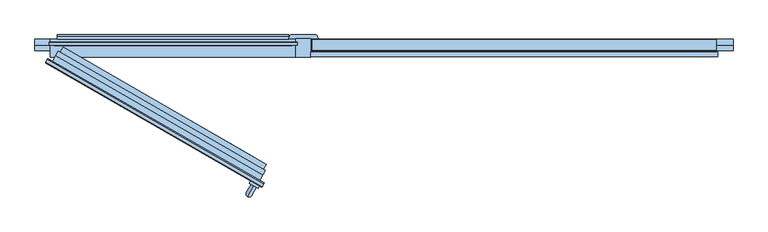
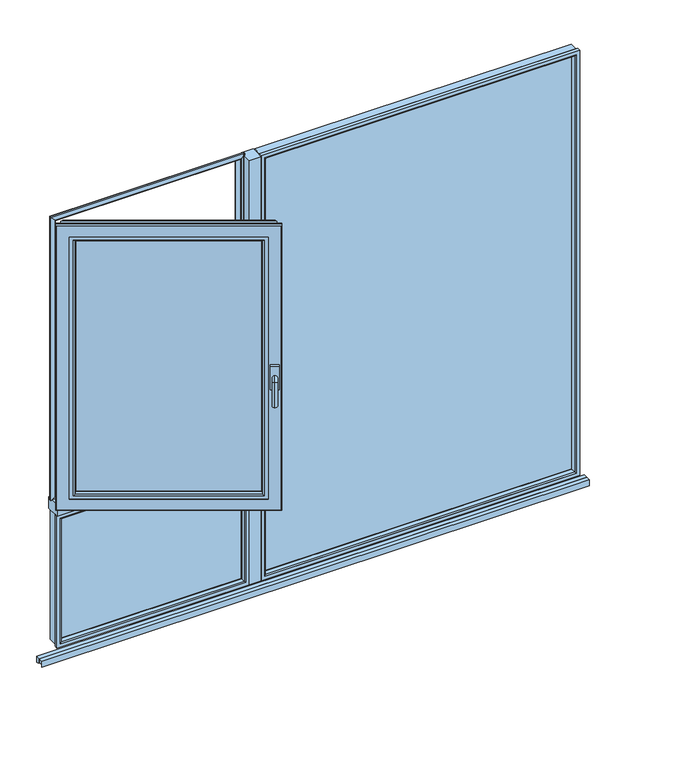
"""IFC4 building model written with IfcOpenShell, lengths in millimetres: window geometry, windowss9000gealanturntiltwindowsublightfixedwindow : windowss9000 2.60 x 2.25."""

from ifc_helpers import new_model, si_unit, point, frame, frame_2d, origin, place, context, project, spatial, polyline, circle_curve, ellipse_curve, trimmed, segment, composite_curve, outline, extrude, faceted_brep, source, transform, mapped, element, save
from ifc_brep_helpers import plane_surface, cylinder_surface, advanced_brep


def window_49c83c31(model_context):
    return source(origin(), model_context, "Body", "SolidModel", [
        faceted_brep([(-1225.0185609, 81.9435696, 1634.9814391), (-1228.9615609, 82.1650228, 1631.0384391), (-1228.9615609, 82.1650228, 3018.9615609), (-1225.0185609, 81.9435696, 3015.0185609), (-1225.0185609, 80.4586856, 1634.9814391), (-1225.0185609, 80.4586856, 3015.0185609), (-1227.3731482, 79.9993258, 1632.6268518), (-1227.3731482, 79.9993258, 3017.3731482), (-1246.1, 81.7, 1613.9), (-1246.1, 81.7, 3036.1), (-1246.1, 90.9718819, 1613.9), (-1246.1, 90.9718819, 3036.1), (-1246.4143137, 92.4497497, 1613.5856863), (-1246.4143137, 92.4497497, 3036.4143137), (-1245.4535534, 92.3254352, 1614.5464466), (-1245.4535534, 92.3254352, 3035.4535534), (-1243.8934304, 89.4676231, 1616.1065696), (-1243.8934304, 89.4676231, 3033.8934304), (-1243.4676669, 84.0419926, 1616.5323331), (-1243.4676669, 84.0419926, 3033.4676669), (-341.0384391, 82.1650228, 3018.9615609), (-344.9814391, 81.9435696, 3015.0185609), (-344.9814391, 80.4586856, 3015.0185609), (-342.6268518, 79.9993258, 3017.3731482), (-323.9, 81.7, 3036.1), (-323.9, 90.9718819, 3036.1), (-323.5856863, 92.4497497, 3036.4143137), (-324.5464466, 92.3254352, 3035.4535534), (-326.1065696, 89.4676231, 3033.8934304), (-326.5323331, 84.0419926, 3033.4676669), (-341.0384391, 82.1650228, 1631.0384391), (-344.9814391, 81.9435696, 1634.9814391), (-344.9814391, 80.4586856, 1634.9814391), (-342.6268518, 79.9993258, 1632.6268518), (-323.9, 81.7, 1613.9), (-323.9, 90.9718819, 1613.9), (-323.5856863, 92.4497497, 1613.5856863), (-324.5464466, 92.3254352, 1614.5464466), (-326.1065696, 89.4676231, 1616.1065696), (-326.5323331, 84.0419926, 1616.5323331)], [[[0, 1, 2, 3]], [[4, 0, 3, 5]], [[6, 4, 5, 7]], [[8, 6, 7, 9]], [[10, 8, 9, 11]], [[12, 10, 11, 13]], [[14, 12, 13, 15]], [[16, 14, 15, 17]], [[18, 16, 17, 19]], [[1, 18, 19, 2]], [[3, 2, 20, 21]], [[5, 3, 21, 22]], [[7, 5, 22, 23]], [[9, 7, 23, 24]], [[11, 9, 24, 25]], [[13, 11, 25, 26]], [[15, 13, 26, 27]], [[17, 15, 27, 28]], [[19, 17, 28, 29]], [[2, 19, 29, 20]], [[21, 20, 30, 31]], [[22, 21, 31, 32]], [[23, 22, 32, 33]], [[24, 23, 33, 34]], [[25, 24, 34, 35]], [[26, 25, 35, 36]], [[27, 26, 36, 37]], [[28, 27, 37, 38]], [[29, 28, 38, 39]], [[20, 29, 39, 30]], [[31, 30, 1, 0]], [[32, 31, 0, 4]], [[33, 32, 4, 6]], [[34, 33, 6, 8]], [[35, 34, 8, 10]], [[36, 35, 10, 12]], [[37, 36, 12, 14]], [[38, 37, 14, 16]], [[39, 38, 16, 18]], [[30, 39, 18, 1]]]),
        extrude(outline(polyline([(3016.0012172, 1226.0012172), (3016.0012172, -256.0012172), (913.9987828, -256.0012172), (913.9987828, 1226.0012172), (3016.0012172, 1226.0012172)]), holes=[polyline([(923.9987828, 1216.0012172), (923.9987828, -246.0012172), (3006.0012172, -246.0012172), (3006.0012172, 1216.0012172), (923.9987828, 1216.0012172)])]), frame((0.0, 59.5, 0.0), z_axis=(0.0, 1.0, 0.0), x_axis=(0.0, 0.0, 1.0)), (0.0, 0.0, 1.0), 2.5),
        advanced_brep(
        [(1242.0, 39.0, 3032.0), (1242.0, 39.0, 898.0), (1242.0, 54.5, 898.0), (1242.0, 54.5, 3032.0), (1227.8034793, 59.5, 3017.8034793), (1229.1432253, 54.5, 3019.1432253), (1229.1432253, 54.5, 910.8567747), (1227.8034793, 59.5, 912.1965207), (1216.0012172, 57.9825503, 3006.0012172), (1216.0012172, 59.5, 3006.0012172), (1216.0012172, 59.5, 923.9987828), (1216.0012172, 57.9825503, 923.9987828), (1219.8959832, 43.4470857, 3009.8959832), (1219.8959832, 43.4470857, 920.1040168), (1225.6915381, 39.0, 3015.6915381), (1225.6915381, 39.0, 914.3084619), (-272.0, 39.0, 898.0), (-272.0, 54.5, 898.0), (-259.1432253, 54.5, 910.8567747), (-257.8034793, 59.5, 912.1965207), (-246.0012172, 59.5, 923.9987828), (-246.0012172, 57.9825503, 923.9987828), (-249.8959832, 43.4470857, 920.1040168), (-255.6915381, 39.0, 914.3084619), (-272.0, 39.0, 3032.0), (-272.0, 54.5, 3032.0), (-259.1432253, 54.5, 3019.1432253), (-257.8034793, 59.5, 3017.8034793), (-246.0012172, 59.5, 3006.0012172), (-246.0012172, 57.9825503, 3006.0012172), (-249.8959832, 43.4470857, 3009.8959832), (-255.6915381, 39.0, 3015.6915381)],
        [
            (0, 1),
            (1, 2),
            (2, 3),
            (3, 0),
            (4, 5),
            (5, 6),
            (6, 7),
            (7, 4),
            (8, 9),
            (9, 10),
            (10, 11),
            (11, 8),
            (12, 8),
            (11, 13),
            (13, 12),
            (14, 12, ellipse_curve(frame((1225.6915381, 45.0, 3015.6915381), z_axis=(0.7071067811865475, 0.0, -0.7071067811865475), x_axis=(0.7071067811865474, 0.0, 0.7071067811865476)), 8.4852814, 6.0)),
            (13, 15, ellipse_curve(frame((1225.6915381, 45.0, 914.3084619), z_axis=(0.7071067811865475, 0.0, 0.7071067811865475), x_axis=(-0.7071067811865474, 0.0, 0.7071067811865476)), 8.4852814, 6.0)),
            (15, 14),
            (1, 16),
            (16, 17),
            (17, 2),
            (6, 18),
            (18, 19),
            (19, 7),
            (10, 20),
            (20, 21),
            (21, 11),
            (21, 22),
            (22, 13),
            (22, 23, ellipse_curve(frame((-255.6915381, 45.0, 914.3084619), z_axis=(0.7071067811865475, 0.0, -0.7071067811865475), x_axis=(0.7071067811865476, 0.0, 0.7071067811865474)), 8.4852814, 6.0)),
            (23, 15),
            (16, 24),
            (24, 25),
            (25, 17),
            (18, 26),
            (26, 27),
            (27, 19),
            (20, 28),
            (28, 29),
            (29, 21),
            (29, 30),
            (30, 22),
            (30, 31, ellipse_curve(frame((-255.6915381, 45.0, 3015.6915381), z_axis=(-0.7071067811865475, 0.0, -0.7071067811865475), x_axis=(0.7071067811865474, 0.0, -0.7071067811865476)), 8.4852814, 6.0)),
            (31, 23),
            (0, 24),
            (31, 14),
            (3, 25),
            (5, 26),
            (4, 27),
            (9, 28),
            (8, 29),
            (12, 30),
        ],
        [
            plane_surface(frame((1242.0, 40.0, 3032.0), z_axis=(1.0, 0.0, 0.0), x_axis=(0.0, 0.0, -1.0))),
            plane_surface(frame((1229.1432253, 54.5, 3019.1432253), z_axis=(0.9659258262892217, 0.2588190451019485, 0.0), x_axis=(0.0, 0.0, -1.0))),
            plane_surface(frame((1216.0012172, 59.5, 3006.0012172), z_axis=(-1.0, 0.0, 0.0), x_axis=(0.0, 0.0, -1.0))),
            plane_surface(frame((1216.0012172, 57.9825503, 3006.0012172), z_axis=(-0.96592582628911, -0.2588190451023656, 0.0), x_axis=(0.0, 0.0, -1.0))),
            cylinder_surface(frame((1225.6915381, 45.0, 3032.0), z_axis=(0.0, 0.0, 1.0), x_axis=(-0.9659258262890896, -0.25881904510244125, 0.0)), 6.0),
            plane_surface(frame((1242.0, 40.0, 898.0), z_axis=(0.0, 0.0, -1.0), x_axis=(-1.0, 0.0, 0.0))),
            plane_surface(frame((1229.1432253, 54.5, 910.8567747), z_axis=(0.0, 0.2588190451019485, -0.9659258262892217), x_axis=(-1.0, 0.0, 0.0))),
            plane_surface(frame((1216.0012172, 59.5, 923.9987828), z_axis=(0.0, 0.0, 1.0), x_axis=(-1.0, 0.0, 0.0))),
            plane_surface(frame((1216.0012172, 57.9825503, 923.9987828), z_axis=(0.0, -0.2588190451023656, 0.96592582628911), x_axis=(-1.0, 0.0, 0.0))),
            cylinder_surface(frame((1242.0, 45.0, 914.3084619), z_axis=(1.0, 0.0, 0.0), x_axis=(0.0, -0.25881904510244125, 0.9659258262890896)), 6.0),
            plane_surface(frame((-272.0, 40.0, 898.0), z_axis=(-1.0, 0.0, 0.0), x_axis=(0.0, 0.0, 1.0))),
            plane_surface(frame((-259.1432253, 54.5, 910.8567747), z_axis=(-0.9659258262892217, 0.2588190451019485, 0.0), x_axis=(0.0, 0.0, 1.0))),
            plane_surface(frame((-246.0012172, 59.5, 923.9987828), z_axis=(1.0, 0.0, 0.0), x_axis=(0.0, 0.0, 1.0))),
            plane_surface(frame((-246.0012172, 57.9825503, 923.9987828), z_axis=(0.96592582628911, -0.2588190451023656, 0.0), x_axis=(0.0, 0.0, 1.0))),
            cylinder_surface(frame((-255.6915381, 45.0, 898.0), z_axis=(0.0, 0.0, -1.0), x_axis=(0.9659258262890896, -0.25881904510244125, 0.0)), 6.0),
            plane_surface(frame((-255.6915381, 39.0, 3015.6915381), z_axis=(0.0, -1.0, 0.0), x_axis=(1.0, 0.0, 0.0))),
            plane_surface(frame((-272.0, 40.0, 3032.0), z_axis=(0.0, 0.0, 1.0), x_axis=(1.0, 0.0, 0.0))),
            plane_surface(frame((-272.0, 54.5, 3032.0), z_axis=(0.0, 1.0, 0.0), x_axis=(1.0, 0.0, 0.0))),
            plane_surface(frame((-259.1432253, 54.5, 3019.1432253), z_axis=(0.0, 0.2588190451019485, 0.9659258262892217), x_axis=(1.0, 0.0, 0.0))),
            plane_surface(frame((-257.8034793, 59.5, 3017.8034793), z_axis=(0.0, 1.0, 0.0), x_axis=(1.0, 0.0, 0.0))),
            plane_surface(frame((-246.0012172, 59.5, 3006.0012172), z_axis=(0.0, 0.0, -1.0), x_axis=(1.0, 0.0, 0.0))),
            plane_surface(frame((-246.0012172, 57.9825503, 3006.0012172), z_axis=(0.0, -0.2588190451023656, -0.96592582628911), x_axis=(1.0, 0.0, 0.0))),
            cylinder_surface(frame((-272.0, 45.0, 3015.6915381), z_axis=(-1.0, 0.0, 0.0), x_axis=(0.0, -0.25881904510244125, -0.9659258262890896)), 6.0),
        ],
        [
            (0, [[1, 2, 3, 4]]),
            (1, [[5, 6, 7, 8]]),
            (2, [[9, 10, 11, 12]]),
            (3, [[13, -12, 14, 15]]),
            (4, [[16, -15, 17, 18]]),
            (5, [[-2, 19, 20, 21]]),
            (6, [[-7, 22, 23, 24]]),
            (7, [[-11, 25, 26, 27]]),
            (8, [[-14, -27, 28, 29]]),
            (9, [[-17, -29, 30, 31]]),
            (10, [[-20, 32, 33, 34]]),
            (11, [[-23, 35, 36, 37]]),
            (12, [[-26, 38, 39, 40]]),
            (13, [[-28, -40, 41, 42]]),
            (14, [[-30, -42, 43, 44]]),
            (15, [[45, -32, -19, -1], [-31, -44, 46, -18]]),
            (16, [[-33, -45, -4, 47]]),
            (17, [[-21, -34, -47, -3], [48, -35, -22, -6]]),
            (18, [[-36, -48, -5, 49]]),
            (19, [[-24, -37, -49, -8], [50, -38, -25, -10]]),
            (20, [[-39, -50, -9, 51]]),
            (21, [[-41, -51, -13, 52]]),
            (22, [[-43, -52, -16, -46]]),
        ],
    ),
        extrude(outline(polyline([(1546.0012172, -343.9987828), (1546.0012172, -1226.0012172), (913.9987828, -1226.0012172), (913.9987828, -343.9987828), (1546.0012172, -343.9987828)]), holes=[polyline([(923.9987828, -353.9987828), (923.9987828, -1216.0012172), (1536.0012172, -1216.0012172), (1536.0012172, -353.9987828), (923.9987828, -353.9987828)])]), frame((0.0, 59.5, 0.0), z_axis=(0.0, 1.0, 0.0), x_axis=(0.0, 0.0, 1.0)), (0.0, 0.0, 1.0), 2.5),
        advanced_brep(
        [(-328.0, 39.0, 1562.0), (-328.0, 39.0, 898.0), (-328.0, 54.5, 898.0), (-328.0, 54.5, 1562.0), (-342.1965207, 59.5, 1547.8034793), (-340.8567747, 54.5, 1549.1432253), (-340.8567747, 54.5, 910.8567747), (-342.1965207, 59.5, 912.1965207), (-353.9987828, 57.9825503, 1536.0012172), (-353.9987828, 59.5, 1536.0012172), (-353.9987828, 59.5, 923.9987828), (-353.9987828, 57.9825503, 923.9987828), (-350.1040168, 43.4470857, 1539.8959832), (-350.1040168, 43.4470857, 920.1040168), (-344.3084619, 39.0, 1545.6915381), (-344.3084619, 39.0, 914.3084619), (-1242.0, 39.0, 898.0), (-1242.0, 54.5, 898.0), (-1229.1432253, 54.5, 910.8567747), (-1227.8034793, 59.5, 912.1965207), (-1216.0012172, 59.5, 923.9987828), (-1216.0012172, 57.9825503, 923.9987828), (-1219.8959832, 43.4470857, 920.1040168), (-1225.6915381, 39.0, 914.3084619), (-1242.0, 39.0, 1562.0), (-1242.0, 54.5, 1562.0), (-1229.1432253, 54.5, 1549.1432253), (-1227.8034793, 59.5, 1547.8034793), (-1216.0012172, 59.5, 1536.0012172), (-1216.0012172, 57.9825503, 1536.0012172), (-1219.8959832, 43.4470857, 1539.8959832), (-1225.6915381, 39.0, 1545.6915381)],
        [
            (0, 1),
            (1, 2),
            (2, 3),
            (3, 0),
            (4, 5),
            (5, 6),
            (6, 7),
            (7, 4),
            (8, 9),
            (9, 10),
            (10, 11),
            (11, 8),
            (12, 8),
            (11, 13),
            (13, 12),
            (14, 12, ellipse_curve(frame((-344.3084619, 45.0, 1545.6915381), z_axis=(0.7071067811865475, 0.0, -0.7071067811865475), x_axis=(0.7071067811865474, 0.0, 0.7071067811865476)), 8.4852814, 6.0)),
            (13, 15, ellipse_curve(frame((-344.3084619, 45.0, 914.3084619), z_axis=(0.7071067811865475, 0.0, 0.7071067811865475), x_axis=(-0.7071067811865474, 0.0, 0.7071067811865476)), 8.4852814, 6.0)),
            (15, 14),
            (1, 16),
            (16, 17),
            (17, 2),
            (6, 18),
            (18, 19),
            (19, 7),
            (10, 20),
            (20, 21),
            (21, 11),
            (21, 22),
            (22, 13),
            (22, 23, ellipse_curve(frame((-1225.6915381, 45.0, 914.3084619), z_axis=(0.7071067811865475, 0.0, -0.7071067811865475), x_axis=(0.7071067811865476, 0.0, 0.7071067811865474)), 8.4852814, 6.0)),
            (23, 15),
            (16, 24),
            (24, 25),
            (25, 17),
            (18, 26),
            (26, 27),
            (27, 19),
            (20, 28),
            (28, 29),
            (29, 21),
            (29, 30),
            (30, 22),
            (30, 31, ellipse_curve(frame((-1225.6915381, 45.0, 1545.6915381), z_axis=(-0.7071067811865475, 0.0, -0.7071067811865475), x_axis=(0.7071067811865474, 0.0, -0.7071067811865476)), 8.4852814, 6.0)),
            (31, 23),
            (0, 24),
            (31, 14),
            (3, 25),
            (5, 26),
            (4, 27),
            (9, 28),
            (8, 29),
            (12, 30),
        ],
        [
            plane_surface(frame((-328.0, 40.0, 1562.0), z_axis=(1.0, 0.0, 0.0), x_axis=(0.0, 0.0, -1.0))),
            plane_surface(frame((-340.8567747, 54.5, 1549.1432253), z_axis=(0.9659258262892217, 0.2588190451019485, 0.0), x_axis=(0.0, 0.0, -1.0))),
            plane_surface(frame((-353.9987828, 59.5, 1536.0012172), z_axis=(-1.0, 0.0, 0.0), x_axis=(0.0, 0.0, -1.0))),
            plane_surface(frame((-353.9987828, 57.9825503, 1536.0012172), z_axis=(-0.96592582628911, -0.2588190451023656, 0.0), x_axis=(0.0, 0.0, -1.0))),
            cylinder_surface(frame((-344.3084619, 45.0, 1562.0), z_axis=(0.0, 0.0, 1.0), x_axis=(-0.9659258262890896, -0.25881904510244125, 0.0)), 6.0),
            plane_surface(frame((-328.0, 40.0, 898.0), z_axis=(0.0, 0.0, -1.0), x_axis=(-1.0, 0.0, 0.0))),
            plane_surface(frame((-340.8567747, 54.5, 910.8567747), z_axis=(0.0, 0.2588190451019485, -0.9659258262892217), x_axis=(-1.0, 0.0, 0.0))),
            plane_surface(frame((-353.9987828, 59.5, 923.9987828), z_axis=(0.0, 0.0, 1.0), x_axis=(-1.0, 0.0, 0.0))),
            plane_surface(frame((-353.9987828, 57.9825503, 923.9987828), z_axis=(0.0, -0.2588190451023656, 0.96592582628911), x_axis=(-1.0, 0.0, 0.0))),
            cylinder_surface(frame((-328.0, 45.0, 914.3084619), z_axis=(1.0, 0.0, 0.0), x_axis=(0.0, -0.25881904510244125, 0.9659258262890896)), 6.0),
            plane_surface(frame((-1242.0, 40.0, 898.0), z_axis=(-1.0, 0.0, 0.0), x_axis=(0.0, 0.0, 1.0))),
            plane_surface(frame((-1229.1432253, 54.5, 910.8567747), z_axis=(-0.9659258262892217, 0.2588190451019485, 0.0), x_axis=(0.0, 0.0, 1.0))),
            plane_surface(frame((-1216.0012172, 59.5, 923.9987828), z_axis=(1.0, 0.0, 0.0), x_axis=(0.0, 0.0, 1.0))),
            plane_surface(frame((-1216.0012172, 57.9825503, 923.9987828), z_axis=(0.96592582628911, -0.2588190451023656, 0.0), x_axis=(0.0, 0.0, 1.0))),
            cylinder_surface(frame((-1225.6915381, 45.0, 898.0), z_axis=(0.0, 0.0, -1.0), x_axis=(0.9659258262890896, -0.25881904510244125, 0.0)), 6.0),
            plane_surface(frame((-1225.6915381, 39.0, 1545.6915381), z_axis=(0.0, -1.0, 0.0), x_axis=(1.0, 0.0, 0.0))),
            plane_surface(frame((-1242.0, 40.0, 1562.0), z_axis=(0.0, 0.0, 1.0), x_axis=(1.0, 0.0, 0.0))),
            plane_surface(frame((-1242.0, 54.5, 1562.0), z_axis=(0.0, 1.0, 0.0), x_axis=(1.0, 0.0, 0.0))),
            plane_surface(frame((-1229.1432253, 54.5, 1549.1432253), z_axis=(0.0, 0.2588190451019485, 0.9659258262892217), x_axis=(1.0, 0.0, 0.0))),
            plane_surface(frame((-1227.8034793, 59.5, 1547.8034793), z_axis=(0.0, 1.0, 0.0), x_axis=(1.0, 0.0, 0.0))),
            plane_surface(frame((-1216.0012172, 59.5, 1536.0012172), z_axis=(0.0, 0.0, -1.0), x_axis=(1.0, 0.0, 0.0))),
            plane_surface(frame((-1216.0012172, 57.9825503, 1536.0012172), z_axis=(0.0, -0.2588190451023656, -0.96592582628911), x_axis=(1.0, 0.0, 0.0))),
            cylinder_surface(frame((-1242.0, 45.0, 1545.6915381), z_axis=(-1.0, 0.0, 0.0), x_axis=(0.0, -0.25881904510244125, -0.9659258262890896)), 6.0),
        ],
        [
            (0, [[1, 2, 3, 4]]),
            (1, [[5, 6, 7, 8]]),
            (2, [[9, 10, 11, 12]]),
            (3, [[13, -12, 14, 15]]),
            (4, [[16, -15, 17, 18]]),
            (5, [[-2, 19, 20, 21]]),
            (6, [[-7, 22, 23, 24]]),
            (7, [[-11, 25, 26, 27]]),
            (8, [[-14, -27, 28, 29]]),
            (9, [[-17, -29, 30, 31]]),
            (10, [[-20, 32, 33, 34]]),
            (11, [[-23, 35, 36, 37]]),
            (12, [[-26, 38, 39, 40]]),
            (13, [[-28, -40, 41, 42]]),
            (14, [[-30, -42, 43, 44]]),
            (15, [[45, -32, -19, -1], [-31, -44, 46, -18]]),
            (16, [[-33, -45, -4, 47]]),
            (17, [[-21, -34, -47, -3], [48, -35, -22, -6]]),
            (18, [[-36, -48, -5, 49]]),
            (19, [[-24, -37, -49, -8], [50, -38, -25, -10]]),
            (20, [[-39, -50, -9, 51]]),
            (21, [[-41, -51, -13, 52]]),
            (22, [[-43, -52, -16, -46]]),
        ],
    ),
        extrude(outline(polyline([(-267.0, 102.0), (1237.0, 102.0), (1237.0, 62.0), (-267.0, 62.0), (-267.0, 102.0)])), frame((0.0, 0.0, 903.0), z_axis=(0.0, 0.0, 1.0), x_axis=(1.0, 0.0, 0.0)), (0.0, 0.0, 1.0), 2124.0),
        extrude(outline(composite_curve([segment(trimmed(circle_curve(frame_2d((-254.3447903, 114.0)), 6.0), [point((-254.3447903, 120.0))], [point((-248.5492353, 115.5529143))], False, "CARTESIAN"), True, "CONTINUOUS"), segment(polyline([(-248.5492353, 115.5529143), (-245.7215904, 105.0), (-354.3100167, 105.0), (-351.4507647, 115.5529143)]), True, "CONTINUOUS"), segment(trimmed(circle_curve(frame_2d((-345.6552097, 114.0)), 6.0), [point((-351.4507647, 115.5529143))], [point((-345.6552097, 120.0))], False, "CARTESIAN"), True, "CONTINUOUS"), segment(polyline([(-345.6552097, 120.0), (-254.3447903, 120.0)]), True, "CONTINUOUS")], self_intersect=False)), frame((0.0, 0.0, 1590.0), z_axis=(0.0, 0.0, 1.0), x_axis=(1.0, 0.0, 0.0)), (0.0, 0.0, 1.0), 1411.9),
        extrude(outline(polyline([(-328.0, 37.5), (-328.0, 105.0), (-272.0, 105.0), (-272.0, 37.5), (-328.0, 37.5)])), frame((0.0, 0.0, 1590.0), z_axis=(0.0, 0.0, 1.0), x_axis=(1.0, 0.0, 0.0)), (0.0, 0.0, 1.0), 1437.9),
        extrude(outline(composite_curve([segment(trimmed(circle_curve(frame_2d((-254.3447903, 114.0)), 6.0), [point((-254.3447903, 120.0))], [point((-248.5492353, 115.5529143))], False, "CARTESIAN"), True, "CONTINUOUS"), segment(polyline([(-248.5492353, 115.5529143), (-245.7215904, 105.0), (-354.3100167, 105.0), (-351.4507647, 115.5529143)]), True, "CONTINUOUS"), segment(trimmed(circle_curve(frame_2d((-345.6552097, 114.0)), 6.0), [point((-351.4507647, 115.5529143))], [point((-345.6552097, 120.0))], False, "CARTESIAN"), True, "CONTINUOUS"), segment(polyline([(-345.6552097, 120.0), (-254.3447903, 120.0)]), True, "CONTINUOUS")], self_intersect=False)), frame((0.0, 0.0, 924.0), z_axis=(0.0, 0.0, 1.0), x_axis=(1.0, 0.0, 0.0)), (0.0, 0.0, 1.0), 666.0),
        extrude(outline(polyline([(-328.0, 37.5), (-328.0, 105.0), (-272.0, 105.0), (-272.0, 37.5), (-328.0, 37.5)])), frame((0.0, 0.0, 898.0), z_axis=(0.0, 0.0, 1.0), x_axis=(1.0, 0.0, 0.0)), (0.0, 0.0, 1.0), 692.0),
        extrude(outline(composite_curve([segment(trimmed(circle_curve(frame_2d((114.0, 1635.6552097)), 6.0), [point((115.5529143, 1641.4507647))], [point((120.0, 1635.6552097))], False, "CARTESIAN"), True, "CONTINUOUS"), segment(polyline([(120.0, 1635.6552097), (120.0, 1544.3447903)]), True, "CONTINUOUS"), segment(trimmed(circle_curve(frame_2d((114.0, 1544.3447903)), 6.0), [point((120.0, 1544.3447903))], [point((115.5529143, 1538.5492353))], False, "CARTESIAN"), True, "CONTINUOUS"), segment(polyline([(115.5529143, 1538.5492353), (105.0, 1535.6899833), (105.0, 1644.2784096), (115.5529143, 1641.4507647)]), True, "CONTINUOUS")], self_intersect=False)), frame((-1216.0, 0.0, 0.0), z_axis=(1.0, 0.0, 0.0), x_axis=(0.0, 1.0, 0.0)), (0.0, 0.0, 1.0), 861.6899833),
        faceted_brep([(-1242.0, 37.5, 1562.0), (-1242.0, 37.5, 1618.0), (-1242.0, 105.0, 1618.0), (-1242.0, 105.0, 1562.0), (-354.3100167, 105.0, 1562.0), (-328.0, 105.0, 1562.0), (-328.0, 37.5, 1562.0), (-354.3100167, 105.0, 1618.0), (-328.0, 105.0, 1618.0), (-328.0, 37.5, 1618.0)], [[[0, 1, 2, 3]], [[0, 3, 4, 5, 6]], [[3, 2, 7, 8, 5, 4]], [[2, 1, 9, 8, 7]], [[1, 0, 6, 9]], [[6, 5, 8, 9]]]),
        advanced_brep(
        [(-485.001819, -443.431724, 2295.5), (-485.001819, -443.431724, 2272.5), (-508.251819, -483.7019053, 2295.5), (-496.751819, -463.783321, 2272.5), (-508.251819, -483.7019053, 2167.0), (-496.751819, -463.783321, 2167.0)],
        [
            (0, 1, circle_curve(frame((-485.001819, -443.431724, 2284.0), z_axis=(0.49999999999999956, 0.8660254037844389, 0.0), x_axis=(0.0, 0.0, -1.0)), 11.5)),
            (1, 0, circle_curve(frame((-485.001819, -443.431724, 2284.0), z_axis=(0.49999999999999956, 0.8660254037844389, 0.0), x_axis=(0.0, 0.0, -1.0)), 11.5)),
            (0, 2),
            (2, 3, ellipse_curve(frame((-502.501819, -473.7426131, 2284.0), z_axis=(0.3535533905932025, 0.6123724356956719, 0.7071067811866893), x_axis=(0.3535533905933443, 0.6123724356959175, -0.7071067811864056)), 16.263456, 11.5)),
            (3, 1),
            (3, 2, ellipse_curve(frame((-502.501819, -473.7426131, 2284.0), z_axis=(0.3535533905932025, 0.6123724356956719, 0.7071067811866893), x_axis=(0.3535533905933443, 0.6123724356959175, -0.7071067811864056)), 16.263456, 11.5)),
            (4, 5, circle_curve(frame((-502.501819, -473.7426131, 2167.0), z_axis=(0.0, 0.0, -1.0), x_axis=(0.49999999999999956, 0.8660254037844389, 0.0)), 11.5)),
            (5, 4, circle_curve(frame((-502.501819, -473.7426131, 2167.0), z_axis=(0.0, 0.0, -1.0), x_axis=(0.49999999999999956, 0.8660254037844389, 0.0)), 11.5)),
            (2, 4),
            (5, 3),
        ],
        [
            plane_surface(frame((-485.001819, -443.431724, 2284.0), z_axis=(0.49999999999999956, 0.8660254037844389, 0.0), x_axis=(0.8660254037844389, -0.49999999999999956, 0.0))),
            cylinder_surface(frame((-485.001819, -443.431724, 2284.0), z_axis=(0.49999999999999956, 0.8660254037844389, 0.0), x_axis=(0.0, 0.0, -1.0)), 11.5),
            plane_surface(frame((-502.501819, -473.7426131, 2167.0), z_axis=(0.0, 0.0, -1.0), x_axis=(0.8660254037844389, -0.49999999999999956, 0.0))),
            cylinder_surface(frame((-502.501819, -473.7426131, 2284.0), z_axis=(0.0, 0.0, 1.0), x_axis=(0.49999999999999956, 0.8660254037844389, 0.0)), 11.5),
        ],
        [
            (0, [[1, 2]]),
            (1, [[-1, 3, 4, 5]]),
            (1, [[-2, -5, 6, -3]]),
            (2, [[7, 8]]),
            (3, [[-4, 9, -8, 10]]),
            (3, [[-6, -10, -7, -9]]),
        ],
    ),
        extrude(outline(polyline([(-463.9803491, -444.02147), (-468.9803491, -452.681724), (-501.023289, -434.181724), (-496.023289, -425.52147), (-463.9803491, -444.02147)])), frame((0.0, 0.0, 2225.0), z_axis=(0.0, 0.0, 1.0), x_axis=(1.0, 0.0, 0.0)), (0.0, 0.0, 1.0), 118.0),
        extrude(outline(polyline([(-1175.6461709, 41.3371686), (-475.8976447, -362.6628314), (-495.8976447, -397.3038476), (-1195.6461709, 6.6961524), (-1175.6461709, 41.3371686)])), frame((0.0, 0.0, 1671.0000002), z_axis=(0.0, 0.0, 1.0), x_axis=(1.0, 0.0, 0.0)), (0.0, 0.0, 1.0), 1308.0),
        extrude(outline(polyline([(1280.4, -780.4000001), (0.0, -780.4000001), (0.0, 0.0), (1280.4, 0.0), (1280.4, -780.4000001)]), holes=[polyline([(1273.2, -7.2000001), (7.2, -7.2000001), (7.2, -773.2000001), (1273.2, -773.2000001), (1273.2, -7.2000001)])]), frame((-1163.6950204, 34.4371686, 2965.2000002), z_axis=(0.4999999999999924, 0.866025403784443, 0.0), x_axis=(0.0, 0.0, -1.0)), (0.0, 0.0, 1.0), 3.0),
        extrude(outline(polyline([(789.0024344, -1289.0024344), (0.0, -1289.0024344), (0.0, 0.0), (789.0024344, 0.0), (789.0024344, -1289.0024344)]), holes=[polyline([(777.5024344, -11.5), (11.5, -11.5), (11.5, -1277.5024344), (777.5024344, -1277.5024344), (777.5024344, -11.5)])]), frame((-1188.6699837, -0.2183025, 1680.498783), z_axis=(0.49999999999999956, 0.8660254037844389, 0.0), x_axis=(0.8660254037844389, -0.49999999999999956, 0.0)), (0.0, 0.0, 1.0), 2.5),
        extrude(outline(polyline([(930.0000001, -1430.0), (0.0, -1430.0), (0.0, 0.0), (930.0000001, 0.0), (930.0000001, -1430.0)]), holes=[polyline([(922.0, -8.0), (8.0000001, -8.0), (8.0000001, -1422.0), (922.0, -1422.0), (922.0, -8.0)])]), frame((-447.820095, -436.0310889, 3040.0000002), z_axis=(0.49999999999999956, 0.8660254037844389, 0.0), x_axis=(-0.8660254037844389, 0.49999999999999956, 0.0)), (0.0, 0.0, 1.0), 3.5),
        advanced_brep(
        [(-1155.6872019, 50.5984621, 2966.3456727), (-1152.8916469, 43.8493954, 2960.5501178), (-1152.8916469, 43.8493954, 1689.4498827), (-1155.6872019, 50.5984621, 1683.6543277), (-1205.9750093, 54.8060797, 3012.0000002), (-1195.2250093, 73.4256258, 3012.0000002), (-1195.2250093, 73.4256258, 1638.0000002), (-1205.9750093, 54.8060797, 1638.0000002), (-1222.9032125, 41.4855716, 3020.0000002), (-1212.9032125, 58.8060797, 3020.0000002), (-1212.9032125, 58.8060797, 1630.0000002), (-1222.9032125, 41.4855716, 1630.0000002), (-1189.0270624, 36.3607847, 2988.1000002), (-1195.2770021, 25.5355716, 2988.1000002), (-1195.2770021, 25.5355716, 1661.9000002), (-1189.0270624, 36.3607847, 1661.9000002), (-1184.6041356, 49.9731535, 2991.0758177), (-1184.6041356, 49.9731535, 1658.9241827), (-1155.4417645, 34.3322271, 2958.0000002), (-1155.9596374, 33.4352448, 2958.0000002), (-1155.9596374, 33.4352448, 1692.0000002), (-1155.4417645, 34.3322271, 1692.0000002), (-485.0992544, -341.7007221, 1689.4498827), (-477.8566137, -340.7472104, 1683.6543277), (-438.3188063, -363.5743742, 1638.0000002), (-449.0688063, -382.1939203, 1638.0000002), (-442.1406031, -386.1939203, 1630.0000002), (-452.1406031, -403.5144284, 1630.0000002), (-479.7668135, -387.5644284, 1661.9000002), (-473.5168738, -376.7392153, 1661.9000002), (-463.9396799, -366.102664, 1658.9241827), (-492.5841781, -349.5647552, 1692.0000002), (-492.0663052, -348.6677729, 1692.0000002), (-485.0992544, -341.7007221, 2960.5501178), (-477.8566137, -340.7472104, 2966.3456727), (-438.3188063, -363.5743742, 3012.0000002), (-449.0688063, -382.1939203, 3012.0000002), (-442.1406031, -386.1939203, 3020.0000002), (-452.1406031, -403.5144284, 3020.0000002), (-479.7668135, -387.5644284, 2988.1000002), (-473.5168738, -376.7392153, 2988.1000002), (-463.9396799, -366.102664, 2991.0758177), (-492.5841781, -349.5647552, 2958.0000002), (-492.0663052, -348.6677729, 2958.0000002)],
        [
            (0, 1, ellipse_curve(frame((-1158.6872019, 45.4023097, 2966.3456727), z_axis=(-0.6123724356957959, 0.3535533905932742, -0.7071067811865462), x_axis=(-0.6123724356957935, 0.35355339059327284, 0.7071067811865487)), 8.4852814, 6.0)),
            (1, 2),
            (2, 3, ellipse_curve(frame((-1158.6872019, 45.4023097, 1683.6543277), z_axis=(-0.6123724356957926, 0.3535533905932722, 0.70710678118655), x_axis=(0.6123724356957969, -0.3535533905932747, 0.7071067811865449)), 8.4852814, 6.0)),
            (3, 0),
            (4, 5),
            (5, 6),
            (6, 7),
            (7, 4),
            (8, 9),
            (9, 10),
            (10, 11),
            (11, 8),
            (12, 13),
            (13, 14),
            (14, 15),
            (15, 12),
            (16, 12),
            (15, 17),
            (17, 16),
            (18, 19),
            (19, 20),
            (20, 21),
            (21, 18),
            (1, 18),
            (21, 2),
            (2, 22),
            (22, 23, ellipse_curve(frame((-480.8566137, -345.9433628, 1683.6543277), z_axis=(-0.6123724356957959, 0.3535533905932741, -0.7071067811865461), x_axis=(-0.6123724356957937, 0.35355339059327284, 0.7071067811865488)), 8.4852814, 6.0)),
            (23, 3),
            (6, 24),
            (24, 25),
            (25, 7),
            (10, 26),
            (26, 27),
            (27, 11),
            (14, 28),
            (28, 29),
            (29, 15),
            (29, 30),
            (30, 17),
            (20, 31),
            (31, 32),
            (32, 21),
            (32, 22),
            (22, 33),
            (33, 34, ellipse_curve(frame((-480.8566137, -345.9433628, 2966.3456727), z_axis=(0.6123724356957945, -0.3535533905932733, -0.7071067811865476), x_axis=(-0.6123724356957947, 0.3535533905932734, -0.7071067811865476)), 8.4852814, 6.0)),
            (34, 23),
            (24, 35),
            (35, 36),
            (36, 25),
            (26, 37),
            (37, 38),
            (38, 27),
            (28, 39),
            (39, 40),
            (40, 29),
            (40, 41),
            (41, 30),
            (31, 42),
            (42, 43),
            (43, 32),
            (43, 33),
            (33, 1),
            (0, 34),
            (5, 35),
            (4, 36),
            (9, 37),
            (8, 38),
            (13, 39),
            (12, 40),
            (16, 41),
            (19, 42),
            (18, 43),
        ],
        [
            cylinder_surface(frame((-1158.6872019, 45.4023097, 3040.0000002), z_axis=(0.0, 0.0, 1.0), x_axis=(0.5000000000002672, 0.8660254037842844, 0.0)), 6.0),
            plane_surface(frame((-1195.2250093, 73.4256258, 3012.0000002), z_axis=(-0.8660254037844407, 0.4999999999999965, 0.0), x_axis=(0.0, 0.0, -1.0))),
            plane_surface(frame((-1212.9032125, 58.8060797, 3020.0000002), z_axis=(-0.8660254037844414, 0.4999999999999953, 0.0), x_axis=(0.0, 0.0, -1.0))),
            plane_surface(frame((-1195.2770021, 25.5355716, 2988.1000002), z_axis=(0.8660254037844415, -0.49999999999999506, 0.0), x_axis=(0.0, 0.0, -1.0))),
            plane_surface(frame((-1189.0270624, 36.3607847, 2988.1000002), z_axis=(0.9510565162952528, -0.30901699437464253, 0.0), x_axis=(0.0, 0.0, -1.0))),
            plane_surface(frame((-1155.9596374, 33.4352448, 2958.0000002), z_axis=(0.8660254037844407, -0.4999999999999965, 0.0), x_axis=(0.0, 0.0, -1.0))),
            plane_surface(frame((-1155.4417645, 34.3322271, 2958.0000002), z_axis=(0.9659258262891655, -0.25881904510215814, 0.0), x_axis=(0.0, 0.0, -1.0))),
            cylinder_surface(frame((-1222.4737206, 82.2294734, 1683.6543277), z_axis=(-0.8660254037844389, 0.49999999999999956, 0.0), x_axis=(0.49999999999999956, 0.8660254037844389, 0.0)), 6.0),
            plane_surface(frame((-1195.2250093, 73.4256258, 1638.0000002), z_axis=(0.0, 0.0, -1.0), x_axis=(0.8660254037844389, -0.49999999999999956, 0.0))),
            plane_surface(frame((-1212.9032125, 58.8060797, 1630.0000002), z_axis=(0.0, 0.0, -1.0), x_axis=(0.8660254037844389, -0.49999999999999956, 0.0))),
            plane_surface(frame((-1195.2770021, 25.5355716, 1661.9000002), z_axis=(0.0, 0.0, 1.0), x_axis=(0.8660254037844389, -0.49999999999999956, 0.0))),
            plane_surface(frame((-1189.0270624, 36.3607847, 1661.9000002), z_axis=(0.10395584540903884, 0.18005680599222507, 0.9781476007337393), x_axis=(0.8660254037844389, -0.49999999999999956, 0.0))),
            plane_surface(frame((-1155.9596374, 33.4352448, 1692.0000002), z_axis=(0.0, 0.0, 1.0), x_axis=(0.8660254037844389, -0.49999999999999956, 0.0))),
            plane_surface(frame((-1155.4417645, 34.3322271, 1692.0000002), z_axis=(0.12940952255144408, 0.2241438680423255, 0.9659258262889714), x_axis=(0.8660254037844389, -0.49999999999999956, 0.0))),
            cylinder_surface(frame((-480.8566137, -345.9433628, 1610.0000002), z_axis=(0.0, 0.0, -1.0), x_axis=(0.4999999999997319, 0.8660254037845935, 0.0)), 6.0),
            plane_surface(frame((-438.3188063, -363.5743742, 1638.0000002), z_axis=(0.8660254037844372, -0.5000000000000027, 0.0), x_axis=(0.0, 0.0, 1.0))),
            plane_surface(frame((-442.1406031, -386.1939203, 1630.0000002), z_axis=(0.8660254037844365, -0.5000000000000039, 0.0), x_axis=(0.0, 0.0, 1.0))),
            plane_surface(frame((-479.7668135, -387.5644284, 1661.9000002), z_axis=(-0.8660254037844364, 0.500000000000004, 0.0), x_axis=(0.0, 0.0, 1.0))),
            plane_surface(frame((-473.5168738, -376.7392153, 1661.9000002), z_axis=(-0.7431448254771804, 0.6691306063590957, 0.0), x_axis=(0.0, 0.0, 1.0))),
            plane_surface(frame((-492.5841781, -349.5647552, 1692.0000002), z_axis=(-0.8660254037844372, 0.5000000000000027, 0.0), x_axis=(0.0, 0.0, 1.0))),
            plane_surface(frame((-492.0663052, -348.6677729, 1692.0000002), z_axis=(-0.7071067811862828, 0.7071067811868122, 0.0), x_axis=(0.0, 0.0, 1.0))),
            cylinder_surface(frame((-417.070095, -382.7705266, 2966.3456727), z_axis=(0.8660254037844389, -0.49999999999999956, 0.0), x_axis=(0.49999999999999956, 0.8660254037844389, 0.0)), 6.0),
            plane_surface(frame((-477.8566137, -340.7472104, 2966.3456727), z_axis=(0.49999999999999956, 0.8660254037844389, 0.0), x_axis=(-0.8660254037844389, 0.49999999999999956, 0.0))),
            plane_surface(frame((-438.3188063, -363.5743742, 3012.0000002), z_axis=(0.0, 0.0, 1.0), x_axis=(-0.8660254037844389, 0.49999999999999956, 0.0))),
            plane_surface(frame((-449.0688063, -382.1939203, 3012.0000002), z_axis=(0.49999999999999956, 0.8660254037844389, 0.0), x_axis=(-0.8660254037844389, 0.49999999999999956, 0.0))),
            plane_surface(frame((-442.1406031, -386.1939203, 3020.0000002), z_axis=(0.0, 0.0, 1.0), x_axis=(-0.8660254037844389, 0.49999999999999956, 0.0))),
            plane_surface(frame((-452.1406031, -403.5144284, 3020.0000002), z_axis=(-0.49999999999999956, -0.8660254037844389, 0.0), x_axis=(-0.8660254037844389, 0.49999999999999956, 0.0))),
            plane_surface(frame((-479.7668135, -387.5644284, 2988.1000002), z_axis=(0.0, 0.0, -1.0), x_axis=(-0.8660254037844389, 0.49999999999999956, 0.0))),
            plane_surface(frame((-473.5168738, -376.7392153, 2988.1000002), z_axis=(0.10395584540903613, 0.18005680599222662, -0.9781476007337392), x_axis=(-0.8660254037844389, 0.49999999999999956, 0.0))),
            plane_surface(frame((-491.7181527, -350.0647552, 2959.0000002), z_axis=(-0.49999999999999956, -0.8660254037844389, 0.0), x_axis=(-0.8660254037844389, 0.49999999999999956, 0.0))),
            plane_surface(frame((-492.5841781, -349.5647552, 2958.0000002), z_axis=(0.0, 0.0, -1.0), x_axis=(-0.8660254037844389, 0.49999999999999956, 0.0))),
            plane_surface(frame((-492.0663052, -348.6677729, 2958.0000002), z_axis=(0.12940952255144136, 0.2241438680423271, -0.9659258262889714), x_axis=(-0.8660254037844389, 0.49999999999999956, 0.0))),
        ],
        [
            (0, [[1, 2, 3, 4]]),
            (1, [[5, 6, 7, 8]]),
            (2, [[9, 10, 11, 12]]),
            (3, [[13, 14, 15, 16]]),
            (4, [[17, -16, 18, 19]]),
            (5, [[20, 21, 22, 23]]),
            (6, [[24, -23, 25, -2]]),
            (7, [[-3, 26, 27, 28]]),
            (8, [[-7, 29, 30, 31]]),
            (9, [[-11, 32, 33, 34]]),
            (10, [[-15, 35, 36, 37]]),
            (11, [[-18, -37, 38, 39]]),
            (12, [[-22, 40, 41, 42]]),
            (13, [[-25, -42, 43, -26]]),
            (14, [[-27, 44, 45, 46]]),
            (15, [[-30, 47, 48, 49]]),
            (16, [[-33, 50, 51, 52]]),
            (17, [[-36, 53, 54, 55]]),
            (18, [[-38, -55, 56, 57]]),
            (19, [[-41, 58, 59, 60]]),
            (20, [[-43, -60, 61, -44]]),
            (21, [[-45, 62, -1, 63]]),
            (22, [[64, -47, -29, -6], [-28, -46, -63, -4]]),
            (23, [[-48, -64, -5, 65]]),
            (24, [[66, -50, -32, -10], [-31, -49, -65, -8]]),
            (25, [[-51, -66, -9, 67]]),
            (26, [[-34, -52, -67, -12], [68, -53, -35, -14]]),
            (27, [[-54, -68, -13, 69]]),
            (28, [[-56, -69, -17, 70]]),
            (29, [[-39, -57, -70, -19], [71, -58, -40, -21]]),
            (30, [[-59, -71, -20, 72]]),
            (31, [[-61, -72, -24, -62]]),
        ],
    ),
        advanced_brep(
        [(-1206.6012979, -2.2786842, 2984.0000002), (-1212.2262979, -12.02147, 2984.0000002), (-1212.2262979, -12.02147, 1666.0000002), (-1206.6012979, -2.2786842, 1666.0000002), (-1195.2770021, 25.5355716, 2988.1000002), (-1210.1520021, -0.2286842, 2988.1000002), (-1210.1520021, -0.2286842, 1661.9000002), (-1195.2770021, 25.5355716, 1661.9000002), (-1235.9032125, 18.9689111, 3020.0000002), (-1222.9032125, 41.4855716, 3020.0000002), (-1222.9032125, 41.4855716, 1630.0000002), (-1235.9032125, 18.9689111, 1630.0000002), (-1259.4737206, 18.1435935, 3040.0000002), (-1253.2237206, 28.9689111, 3040.0000002), (-1253.2237206, 28.9689111, 1610.0000002), (-1259.4737206, 18.1435935, 1610.0000002), (-1258.558657, 14.72853, 3037.5000002), (-1258.558657, 14.72853, 1612.5000002), (-503.8175177, -421.02147, 1666.0000002), (-498.1925177, -411.2786842, 1666.0000002), (-494.6418135, -413.3286842, 1661.9000002), (-479.7668135, -387.5644284, 1661.9000002), (-452.1406031, -403.5144284, 1630.0000002), (-465.1406031, -426.0310889, 1630.0000002), (-447.820095, -436.0310889, 1610.0000002), (-454.070095, -446.8564065, 1610.0000002), (-457.4851585, -447.77147, 1612.5000002), (-503.8175177, -421.02147, 2984.0000002), (-498.1925177, -411.2786842, 2984.0000002), (-494.6418135, -413.3286842, 2988.1000002), (-479.7668135, -387.5644284, 2988.1000002), (-452.1406031, -403.5144284, 3020.0000002), (-465.1406031, -426.0310889, 3020.0000002), (-447.820095, -436.0310889, 3040.0000002), (-454.070095, -446.8564065, 3040.0000002), (-457.4851585, -447.77147, 3037.5000002)],
        [
            (0, 1),
            (1, 2),
            (2, 3),
            (3, 0),
            (4, 5),
            (5, 6),
            (6, 7),
            (7, 4),
            (8, 9),
            (9, 10),
            (10, 11),
            (11, 8),
            (12, 13),
            (13, 14),
            (14, 15),
            (15, 12),
            (16, 12, ellipse_curve(frame((-1257.308657, 16.8935935, 3037.5000002), z_axis=(-0.6123724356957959, 0.3535533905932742, -0.7071067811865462), x_axis=(-0.6123724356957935, 0.35355339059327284, 0.7071067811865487)), 3.5355339, 2.5)),
            (15, 17, ellipse_curve(frame((-1257.308657, 16.8935935, 1612.5000002), z_axis=(-0.6123724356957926, 0.3535533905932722, 0.70710678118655), x_axis=(0.6123724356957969, -0.3535533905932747, 0.7071067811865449)), 3.5355339, 2.5)),
            (17, 16),
            (2, 18),
            (18, 19),
            (19, 3),
            (6, 20),
            (20, 21),
            (21, 7),
            (10, 22),
            (22, 23),
            (23, 11),
            (14, 24),
            (24, 25),
            (25, 15),
            (25, 26, ellipse_curve(frame((-456.2351585, -445.6064065, 1612.5000002), z_axis=(-0.6123724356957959, 0.3535533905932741, -0.7071067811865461), x_axis=(-0.6123724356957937, 0.35355339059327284, 0.7071067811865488)), 3.5355339, 2.5)),
            (26, 17),
            (18, 27),
            (27, 28),
            (28, 19),
            (20, 29),
            (29, 30),
            (30, 21),
            (22, 31),
            (31, 32),
            (32, 23),
            (24, 33),
            (33, 34),
            (34, 25),
            (34, 35, ellipse_curve(frame((-456.2351585, -445.6064065, 3037.5000002), z_axis=(0.6123724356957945, -0.3535533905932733, -0.7071067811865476), x_axis=(-0.6123724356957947, 0.3535533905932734, -0.7071067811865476)), 3.5355339, 2.5)),
            (35, 26),
            (35, 16),
            (1, 27),
            (0, 28),
            (5, 29),
            (4, 30),
            (9, 31),
            (8, 32),
            (13, 33),
            (12, 34),
        ],
        [
            plane_surface(frame((-1212.2262979, -12.02147, 2984.0000002), z_axis=(0.8660254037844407, -0.4999999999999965, 0.0), x_axis=(0.0, 0.0, -1.0))),
            plane_surface(frame((-1210.1520021, -0.2286842, 2988.1000002), z_axis=(0.8660254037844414, -0.4999999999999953, 0.0), x_axis=(0.0, 0.0, -1.0))),
            plane_surface(frame((-1222.9032125, 41.4855716, 3020.0000002), z_axis=(-0.8660254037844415, 0.4999999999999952, 0.0), x_axis=(0.0, 0.0, -1.0))),
            plane_surface(frame((-1253.2237206, 28.9689111, 3040.0000002), z_axis=(-0.8660254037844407, 0.4999999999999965, 0.0), x_axis=(0.0, 0.0, -1.0))),
            cylinder_surface(frame((-1257.308657, 16.8935935, 3040.0000002), z_axis=(0.0, 0.0, 1.0), x_axis=(-0.4999999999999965, -0.8660254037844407, 0.0)), 2.5),
            plane_surface(frame((-1212.2262979, -12.02147, 1666.0000002), z_axis=(0.0, 0.0, 1.0), x_axis=(0.8660254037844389, -0.49999999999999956, 0.0))),
            plane_surface(frame((-1210.1520021, -0.2286842, 1661.9000002), z_axis=(0.0, 0.0, 1.0), x_axis=(0.8660254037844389, -0.49999999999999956, 0.0))),
            plane_surface(frame((-1222.9032125, 41.4855716, 1630.0000002), z_axis=(0.0, 0.0, -1.0), x_axis=(0.8660254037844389, -0.49999999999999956, 0.0))),
            plane_surface(frame((-1253.2237206, 28.9689111, 1610.0000002), z_axis=(0.0, 0.0, -1.0), x_axis=(0.8660254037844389, -0.49999999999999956, 0.0))),
            cylinder_surface(frame((-1259.4737206, 18.1435935, 1612.5000002), z_axis=(-0.8660254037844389, 0.49999999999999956, 0.0), x_axis=(-0.49999999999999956, -0.8660254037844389, 0.0)), 2.5),
            plane_surface(frame((-503.8175177, -421.02147, 1666.0000002), z_axis=(-0.8660254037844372, 0.5000000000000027, 0.0), x_axis=(0.0, 0.0, 1.0))),
            plane_surface(frame((-494.6418135, -413.3286842, 1661.9000002), z_axis=(-0.8660254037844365, 0.5000000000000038, 0.0), x_axis=(0.0, 0.0, 1.0))),
            plane_surface(frame((-452.1406031, -403.5144284, 1630.0000002), z_axis=(0.8660254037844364, -0.5000000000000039, 0.0), x_axis=(0.0, 0.0, 1.0))),
            plane_surface(frame((-447.820095, -436.0310889, 1610.0000002), z_axis=(0.8660254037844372, -0.5000000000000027, 0.0), x_axis=(0.0, 0.0, 1.0))),
            cylinder_surface(frame((-456.2351585, -445.6064065, 1610.0000002), z_axis=(0.0, 0.0, -1.0), x_axis=(-0.5000000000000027, -0.8660254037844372, 0.0)), 2.5),
            plane_surface(frame((-457.4851585, -447.77147, 3037.5000002), z_axis=(-0.49999999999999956, -0.8660254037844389, 0.0), x_axis=(-0.8660254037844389, 0.49999999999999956, 0.0))),
            plane_surface(frame((-503.8175177, -421.02147, 2984.0000002), z_axis=(0.0, 0.0, -1.0), x_axis=(-0.8660254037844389, 0.49999999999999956, 0.0))),
            plane_surface(frame((-498.1925177, -411.2786842, 2984.0000002), z_axis=(0.49999999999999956, 0.8660254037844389, 0.0), x_axis=(-0.8660254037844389, 0.49999999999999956, 0.0))),
            plane_surface(frame((-494.6418135, -413.3286842, 2988.1000002), z_axis=(0.0, 0.0, -1.0), x_axis=(-0.8660254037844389, 0.49999999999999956, 0.0))),
            plane_surface(frame((-479.7668135, -387.5644284, 2988.1000002), z_axis=(0.49999999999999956, 0.8660254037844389, 0.0), x_axis=(-0.8660254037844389, 0.49999999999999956, 0.0))),
            plane_surface(frame((-452.1406031, -403.5144284, 3020.0000002), z_axis=(0.0, 0.0, 1.0), x_axis=(-0.8660254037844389, 0.49999999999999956, 0.0))),
            plane_surface(frame((-448.6861204, -435.5310889, 3039.0000002), z_axis=(0.49999999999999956, 0.8660254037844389, 0.0), x_axis=(-0.8660254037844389, 0.49999999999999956, 0.0))),
            plane_surface(frame((-447.820095, -436.0310889, 3040.0000002), z_axis=(0.0, 0.0, 1.0), x_axis=(-0.8660254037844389, 0.49999999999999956, 0.0))),
            cylinder_surface(frame((-454.070095, -446.8564065, 3037.5000002), z_axis=(0.8660254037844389, -0.49999999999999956, 0.0), x_axis=(-0.49999999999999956, -0.8660254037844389, 0.0)), 2.5),
        ],
        [
            (0, [[1, 2, 3, 4]]),
            (1, [[5, 6, 7, 8]]),
            (2, [[9, 10, 11, 12]]),
            (3, [[13, 14, 15, 16]]),
            (4, [[17, -16, 18, 19]]),
            (5, [[-3, 20, 21, 22]]),
            (6, [[-7, 23, 24, 25]]),
            (7, [[-11, 26, 27, 28]]),
            (8, [[-15, 29, 30, 31]]),
            (9, [[-18, -31, 32, 33]]),
            (10, [[-21, 34, 35, 36]]),
            (11, [[-24, 37, 38, 39]]),
            (12, [[-27, 40, 41, 42]]),
            (13, [[-30, 43, 44, 45]]),
            (14, [[-32, -45, 46, 47]]),
            (15, [[-33, -47, 48, -19], [49, -34, -20, -2]]),
            (16, [[-35, -49, -1, 50]]),
            (17, [[51, -37, -23, -6], [-22, -36, -50, -4]]),
            (18, [[-38, -51, -5, 52]]),
            (19, [[53, -40, -26, -10], [-25, -39, -52, -8]]),
            (20, [[-41, -53, -9, 54]]),
            (21, [[55, -43, -29, -14], [-28, -42, -54, -12]]),
            (22, [[-44, -55, -13, 56]]),
            (23, [[-46, -56, -17, -48]]),
        ],
    ),
        advanced_brep(
        [(-1190.110115, -17.9231511, 2961.8959834), (-1197.3527557, -18.8766628, 2967.6915384), (-1197.3527557, -18.8766628, 1682.3084621), (-1190.110115, -17.9231511, 1688.104017), (-1179.4694164, -7.2824525, 2958.0012174), (-1179.4694164, -7.2824525, 1691.998783), (-1178.7106916, -5.9683025, 2958.0012174), (-1178.7106916, -5.9683025, 1691.998783), (-1192.5920044, -3.7274255, 2971.1432255), (-1188.9317504, -0.0671714, 2969.8034795), (-1188.9317504, -0.0671714, 1680.1965209), (-1192.5920044, -3.7274255, 1678.856775), (-1203.7262979, 2.7009619, 2984.0000002), (-1203.7262979, 2.7009619, 1666.0000002), (-1211.4762979, -10.7224319, 1666.0000002), (-1211.4762979, -10.7224319, 2984.0000002), (-517.1910599, -411.5682009, 1682.3084621), (-519.9866149, -404.8191342, 1688.104017), (-516.0918489, -390.2836697, 1691.998783), (-515.333124, -388.9695197, 1691.998783), (-505.1120652, -394.8706507, 1680.1965209), (-506.4518112, -399.8706507, 1678.856775), (-495.3175177, -406.2990381, 1666.0000002), (-503.0675177, -419.7224319, 1666.0000002), (-517.1910599, -411.5682009, 2967.6915384), (-519.9866149, -404.8191342, 2961.8959834), (-516.0918489, -390.2836697, 2958.0012174), (-515.333124, -388.9695197, 2958.0012174), (-505.1120652, -394.8706507, 2969.8034795), (-506.4518112, -399.8706507, 2971.1432255), (-495.3175177, -406.2990381, 2984.0000002), (-503.0675177, -419.7224319, 2984.0000002)],
        [
            (0, 1, ellipse_curve(frame((-1194.3527557, -13.6805104, 2967.6915384), z_axis=(-0.6123724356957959, 0.3535533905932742, -0.7071067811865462), x_axis=(-0.6123724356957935, 0.35355339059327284, 0.7071067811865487)), 8.4852814, 6.0)),
            (1, 2),
            (2, 3, ellipse_curve(frame((-1194.3527557, -13.6805104, 1682.3084621), z_axis=(-0.6123724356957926, 0.3535533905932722, 0.70710678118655), x_axis=(0.6123724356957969, -0.3535533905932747, 0.7071067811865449)), 8.4852814, 6.0)),
            (3, 0),
            (4, 0),
            (3, 5),
            (5, 4),
            (6, 4),
            (5, 7),
            (7, 6),
            (8, 9),
            (9, 10),
            (10, 11),
            (11, 8),
            (12, 13),
            (13, 14),
            (14, 15),
            (15, 12),
            (2, 16),
            (16, 17, ellipse_curve(frame((-514.1910599, -406.3720485, 1682.3084621), z_axis=(-0.6123724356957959, 0.3535533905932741, -0.7071067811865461), x_axis=(-0.6123724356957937, 0.35355339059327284, 0.7071067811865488)), 8.4852814, 6.0)),
            (17, 3),
            (17, 18),
            (18, 5),
            (18, 19),
            (19, 7),
            (10, 20),
            (20, 21),
            (21, 11),
            (13, 22),
            (22, 23),
            (23, 14),
            (16, 24),
            (24, 25, ellipse_curve(frame((-514.1910599, -406.3720485, 2967.6915384), z_axis=(0.6123724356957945, -0.3535533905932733, -0.7071067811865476), x_axis=(-0.6123724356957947, 0.3535533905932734, -0.7071067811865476)), 8.4852814, 6.0)),
            (25, 17),
            (25, 26),
            (26, 18),
            (26, 27),
            (27, 19),
            (20, 28),
            (28, 29),
            (29, 21),
            (22, 30),
            (30, 31),
            (31, 23),
            (24, 1),
            (0, 25),
            (4, 26),
            (6, 27),
            (9, 28),
            (8, 29),
            (12, 30),
            (15, 31),
        ],
        [
            cylinder_surface(frame((-1194.3527557, -13.6805104, 3040.0000002), z_axis=(0.0, 0.0, 1.0), x_axis=(0.7071067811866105, -0.7071067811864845, 0.0)), 6.0),
            plane_surface(frame((-1190.110115, -17.9231511, 2961.8959834), z_axis=(0.7071067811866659, -0.7071067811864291, 0.0), x_axis=(0.0, 0.0, -1.0))),
            plane_surface(frame((-1179.4694164, -7.2824525, 2958.0012174), z_axis=(0.8660254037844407, -0.4999999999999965, 0.0), x_axis=(0.0, 0.0, -1.0))),
            plane_surface(frame((-1188.9317504, -0.0671714, 2969.8034795), z_axis=(-0.7071067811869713, 0.7071067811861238, 0.0), x_axis=(0.0, 0.0, -1.0))),
            plane_surface(frame((-1210.9762979, -9.8564065, 2984.0000002), z_axis=(-0.8660254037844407, 0.4999999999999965, 0.0), x_axis=(0.0, 0.0, -1.0))),
            cylinder_surface(frame((-1256.9737206, 22.4737206, 1682.3084621), z_axis=(-0.8660254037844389, 0.49999999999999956, 0.0), x_axis=(-0.12940952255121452, -0.22414386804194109, 0.9659258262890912)), 6.0),
            plane_surface(frame((-1190.110115, -17.9231511, 1688.104017), z_axis=(-0.12940952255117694, -0.2241438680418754, 0.9659258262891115), x_axis=(0.8660254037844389, -0.49999999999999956, 0.0))),
            plane_surface(frame((-1179.4694164, -7.2824525, 1691.998783), z_axis=(0.0, 0.0, 1.0), x_axis=(0.8660254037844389, -0.49999999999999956, 0.0))),
            plane_surface(frame((-1188.9317504, -0.0671714, 1680.1965209), z_axis=(0.12940952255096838, 0.22414386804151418, -0.9659258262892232), x_axis=(0.8660254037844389, -0.49999999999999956, 0.0))),
            plane_surface(frame((-1210.9762979, -9.8564065, 1666.0000002), z_axis=(0.0, 0.0, -1.0), x_axis=(0.8660254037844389, -0.49999999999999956, 0.0))),
            cylinder_surface(frame((-514.1910599, -406.3720485, 1610.0000002), z_axis=(0.0, 0.0, -1.0), x_axis=(-0.9659258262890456, 0.2588190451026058, 0.0)), 6.0),
            plane_surface(frame((-519.9866149, -404.8191342, 1688.104017), z_axis=(-0.9659258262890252, 0.2588190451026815, 0.0), x_axis=(0.0, 0.0, 1.0))),
            plane_surface(frame((-516.0918489, -390.2836697, 1691.998783), z_axis=(-0.8660254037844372, 0.5000000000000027, 0.0), x_axis=(0.0, 0.0, 1.0))),
            plane_surface(frame((-505.1120652, -394.8706507, 1680.1965209), z_axis=(0.9659258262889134, -0.2588190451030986, 0.0), x_axis=(0.0, 0.0, 1.0))),
            plane_surface(frame((-502.5675177, -418.8564065, 1666.0000002), z_axis=(0.8660254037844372, -0.5000000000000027, 0.0), x_axis=(0.0, 0.0, 1.0))),
            cylinder_surface(frame((-451.570095, -442.5262794, 2967.6915384), z_axis=(0.8660254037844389, -0.49999999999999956, 0.0), x_axis=(-0.12940952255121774, -0.22414386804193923, -0.9659258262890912)), 6.0),
            plane_surface(frame((-519.9866149, -404.8191342, 2961.8959834), z_axis=(-0.12940952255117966, -0.22414386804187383, -0.9659258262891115), x_axis=(-0.8660254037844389, 0.49999999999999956, 0.0))),
            plane_surface(frame((-516.0918489, -390.2836697, 2958.0012174), z_axis=(0.0, 0.0, -1.0), x_axis=(-0.8660254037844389, 0.49999999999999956, 0.0))),
            plane_surface(frame((-515.333124, -388.9695197, 2958.0012174), z_axis=(0.49999999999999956, 0.8660254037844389, 0.0), x_axis=(-0.8660254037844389, 0.49999999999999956, 0.0))),
            plane_surface(frame((-505.1120652, -394.8706507, 2969.8034795), z_axis=(0.1294095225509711, 0.2241438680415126, 0.9659258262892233), x_axis=(-0.8660254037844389, 0.49999999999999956, 0.0))),
            plane_surface(frame((-506.4518112, -399.8706507, 2971.1432255), z_axis=(0.49999999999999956, 0.8660254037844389, 0.0), x_axis=(-0.8660254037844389, 0.49999999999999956, 0.0))),
            plane_surface(frame((-502.5675177, -418.8564065, 2984.0000002), z_axis=(0.0, 0.0, 1.0), x_axis=(-0.8660254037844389, 0.49999999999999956, 0.0))),
            plane_surface(frame((-503.0675177, -419.7224319, 2984.0000002), z_axis=(-0.49999999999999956, -0.8660254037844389, 0.0), x_axis=(-0.8660254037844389, 0.49999999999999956, 0.0))),
        ],
        [
            (0, [[1, 2, 3, 4]]),
            (1, [[5, -4, 6, 7]]),
            (2, [[8, -7, 9, 10]]),
            (3, [[11, 12, 13, 14]]),
            (4, [[15, 16, 17, 18]]),
            (5, [[-3, 19, 20, 21]]),
            (6, [[-6, -21, 22, 23]]),
            (7, [[-9, -23, 24, 25]]),
            (8, [[-13, 26, 27, 28]]),
            (9, [[-16, 29, 30, 31]]),
            (10, [[-20, 32, 33, 34]]),
            (11, [[-22, -34, 35, 36]]),
            (12, [[-24, -36, 37, 38]]),
            (13, [[-27, 39, 40, 41]]),
            (14, [[-30, 42, 43, 44]]),
            (15, [[-33, 45, -1, 46]]),
            (16, [[-35, -46, -5, 47]]),
            (17, [[-37, -47, -8, 48]]),
            (18, [[49, -39, -26, -12], [-25, -38, -48, -10]]),
            (19, [[-40, -49, -11, 50]]),
            (20, [[51, -42, -29, -15], [-28, -41, -50, -14]]),
            (21, [[-43, -51, -18, 52]]),
            (22, [[-31, -44, -52, -17], [-45, -32, -19, -2]]),
        ],
    ),
        extrude(outline(polyline([(-1237.0, 102.0), (-333.0, 102.0), (-333.0, 62.0), (-1237.0, 62.0), (-1237.0, 102.0)])), frame((0.0, 0.0, 903.0), z_axis=(0.0, 0.0, 1.0), x_axis=(1.0, 0.0, 0.0)), (0.0, 0.0, 1.0), 654.0),
        extrude(outline(polyline([(103.5, 810.0), (94.25, 810.0), (94.25, 818.0), (82.5, 818.0), (82.5, 840.0), (103.5, 840.0), (103.5, 810.0)])), frame((-1300.0, 0.0, 0.0), z_axis=(1.0, 0.0, 0.0), x_axis=(0.0, 1.0, 0.0)), (0.0, 0.0, 1.0), 2600.0),
        extrude(outline(polyline([(65.75, 810.0), (62.0, 810.0), (62.0, 840.0), (82.5, 840.0), (82.5, 818.0), (65.75, 818.0), (65.75, 810.0)])), frame((-1300.0, 0.0, 0.0), z_axis=(1.0, 0.0, 0.0), x_axis=(0.0, 1.0, 0.0)), (0.0, 0.0, 1.0), 2600.0),
    ])


if __name__ == "__main__":
    model = new_model("IFC4")
    model_context = context("Model", 3, world=origin())
    ifc_project = project(units=[si_unit("LENGTHUNIT", "METRE", prefix="MILLI")], contexts=[model_context])
    site = spatial("IfcSite", under=ifc_project)
    building = spatial("IfcBuilding", under=site)
    placement = place(None, origin())
    window_shape = window_49c83c31(model_context)
    element("IfcWindow", 1, ObjectType="windowss9000gealanturntiltwindowsublightfixedwindow : windowss9000 2.60 x 2.25", at=placement, inside=building, context=model_context, shape_type="MappedRepresentation", body=[
        mapped(window_shape, transform((0.0, 0.0, 0.0), x_axis=(1.0, 0.0, 0.0), y_axis=(0.0, 1.0, 0.0), z_axis=(0.0, 0.0, 1.0))),
    ])
    save(model, "model.ifc")
